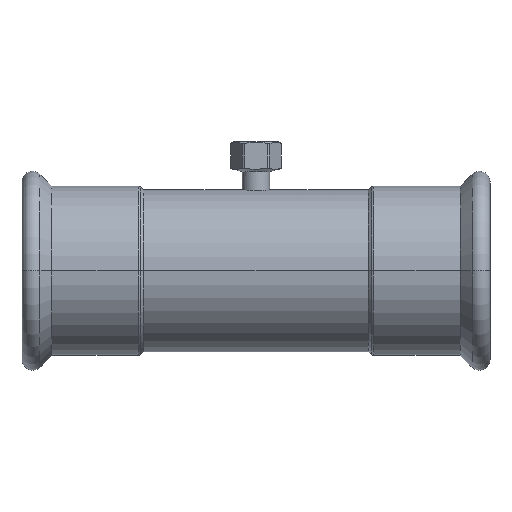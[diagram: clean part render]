
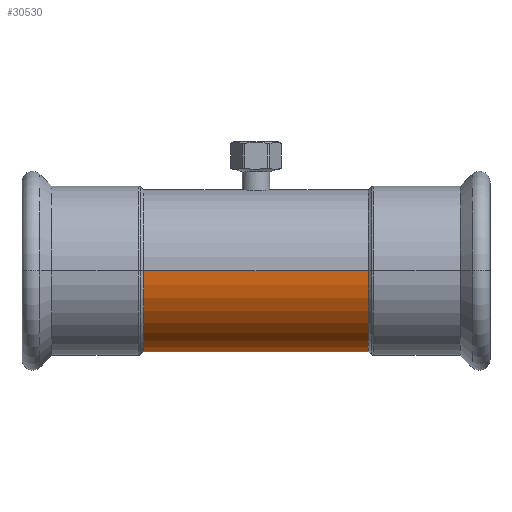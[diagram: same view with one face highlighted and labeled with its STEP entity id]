
A CAD part, front view. The second image highlights one B-rep face of the part: STEP entity #30530.
In plain terms, the highlighted cylindrical face has radius 54 mm (diameter 108 mm), a partial arc.
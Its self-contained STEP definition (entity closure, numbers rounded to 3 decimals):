
#7960=CARTESIAN_POINT('',(-21.193,108.409,0.));
#7970=DIRECTION('',(1.,0.,0.));
#7980=DIRECTION('',(0.,0.,1.));
#7990=AXIS2_PLACEMENT_3D('',#7960,#7970,#7980);
#8000=CYLINDRICAL_SURFACE('',#7990,54.);
#30170=CARTESIAN_POINT('',(-21.193,108.409,-54.));
#30180=DIRECTION('',(1.,0.,0.));
#30190=VECTOR('',#30180,1.);
#30200=LINE('',#30170,#30190);
#30210=CARTESIAN_POINT('',(-171.193,108.409,-54.));
#30220=VERTEX_POINT('',#30210);
#30230=CARTESIAN_POINT('',(-21.193,108.409,-54.));
#30240=VERTEX_POINT('',#30230);
#30250=EDGE_CURVE('',#30220,#30240,#30200,.T.);
#30260=ORIENTED_EDGE('',*,*,#30250,.F.);
#30270=CARTESIAN_POINT('',(-21.193,108.409,0.));
#30280=DIRECTION('',(1.,0.,0.));
#30290=DIRECTION('',(0.,0.,-1.));
#30300=AXIS2_PLACEMENT_3D('',#30270,#30280,#30290);
#30310=CIRCLE('',#30300,54.);
#30320=CARTESIAN_POINT('',(-21.193,108.409,54.));
#30330=VERTEX_POINT('',#30320);
#30340=EDGE_CURVE('',#30240,#30330,#30310,.T.);
#30350=ORIENTED_EDGE('',*,*,#30340,.F.);
#30360=CARTESIAN_POINT('',(-21.193,108.409,54.));
#30370=DIRECTION('',(1.,0.,0.));
#30380=VECTOR('',#30370,1.);
#30390=LINE('',#30360,#30380);
#30400=CARTESIAN_POINT('',(-171.193,108.409,54.));
#30410=VERTEX_POINT('',#30400);
#30420=EDGE_CURVE('',#30410,#30330,#30390,.T.);
#30430=ORIENTED_EDGE('',*,*,#30420,.T.);
#30440=CARTESIAN_POINT('',(-171.193,108.409,0.));
#30450=DIRECTION('',(1.,0.,0.));
#30460=DIRECTION('',(0.,0.,1.));
#30470=AXIS2_PLACEMENT_3D('',#30440,#30450,#30460);
#30480=CIRCLE('',#30470,54.);
#30490=EDGE_CURVE('',#30220,#30410,#30480,.T.);
#30500=ORIENTED_EDGE('',*,*,#30490,.T.);
#30510=EDGE_LOOP('',(#30500,#30430,#30350,#30260));
#30520=FACE_OUTER_BOUND('',#30510,.T.);
#30530=ADVANCED_FACE('',(#30520),#8000,.T.);
